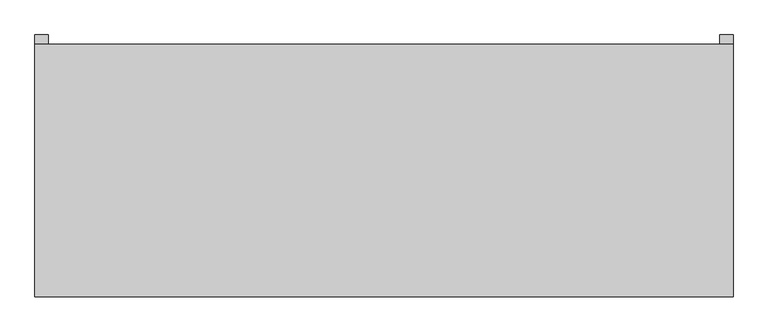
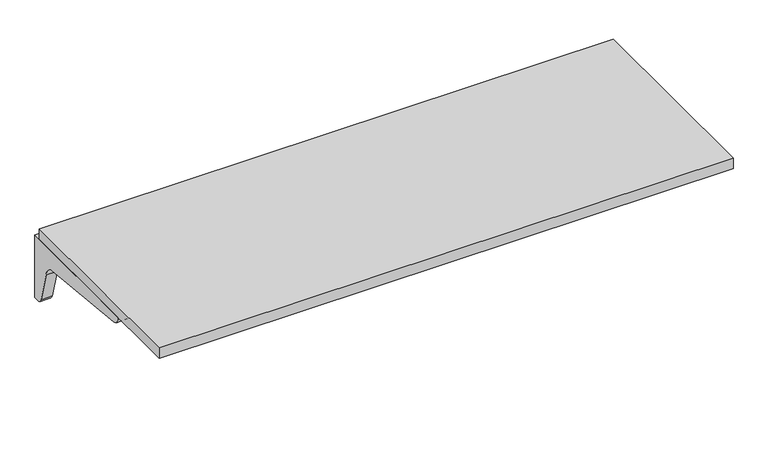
"""IFC4 building model written with IfcOpenShell, lengths in millimetres: furniture geometry."""

from ifc_helpers import new_model, si_unit, point, frame, frame_2d, origin, place, context, project, spatial, polyline, circle_curve, trimmed, segment, composite_curve, outline, extrude, source, transform, mapped, element, save


def furniture_96cd3a92(model_context):
    return source(origin(), model_context, "Body", "SweptSolid", [
        extrude(outline(composite_curve([segment(polyline([(314.325, 704.85), (314.325, 511.175), (301.625, 511.175)]), True, "CONTINUOUS"), segment(trimmed(circle_curve(frame_2d((299.3081081, 528.3371622)), 17.3178462), [point((301.625, 511.175))], [point((282.575, 523.875))], False, "CARTESIAN"), True, "CONTINUOUS"), segment(polyline([(282.575, 523.875), (257.175, 615.95)]), True, "CONTINUOUS"), segment(trimmed(circle_curve(frame_2d((221.8170455, 612.3420455)), 35.5415572), [point((257.175, 615.95))], [point((225.425, 647.7))], True, "CARTESIAN"), True, "CONTINUOUS"), segment(polyline([(225.425, 647.7), (-85.725, 679.45)]), True, "CONTINUOUS"), segment(trimmed(circle_curve(frame_2d((-85.725, 698.5)), 19.05), [point((-85.725, 679.45))], [point((-104.775, 698.5))], False, "CARTESIAN"), True, "CONTINUOUS"), segment(polyline([(-104.775, 698.5), (-104.775, 704.85), (314.325, 704.85)]), True, "CONTINUOUS")], self_intersect=False)), frame((806.45, 0.0, 0.0), z_axis=(1.0, 0.0, 0.0), x_axis=(0.0, 1.0, 0.0)), (0.0, 0.0, 1.0), 31.75),
        extrude(outline(composite_curve([segment(polyline([(314.325, 704.85), (314.325, 511.175), (301.625, 511.175)]), True, "CONTINUOUS"), segment(trimmed(circle_curve(frame_2d((299.3081081, 528.3371622)), 17.3178462), [point((301.625, 511.175))], [point((282.575, 523.875))], False, "CARTESIAN"), True, "CONTINUOUS"), segment(polyline([(282.575, 523.875), (257.175, 615.95)]), True, "CONTINUOUS"), segment(trimmed(circle_curve(frame_2d((221.8170455, 612.3420455)), 35.5415572), [point((257.175, 615.95))], [point((225.425, 647.7))], True, "CARTESIAN"), True, "CONTINUOUS"), segment(polyline([(225.425, 647.7), (-85.725, 679.45)]), True, "CONTINUOUS"), segment(trimmed(circle_curve(frame_2d((-85.725, 698.5)), 19.05), [point((-85.725, 679.45))], [point((-104.775, 698.5))], False, "CARTESIAN"), True, "CONTINUOUS"), segment(polyline([(-104.775, 698.5), (-104.775, 704.85), (314.325, 704.85)]), True, "CONTINUOUS")], self_intersect=False)), frame((-838.2, 0.0, 0.0), z_axis=(1.0, 0.0, 0.0), x_axis=(0.0, 1.0, 0.0)), (0.0, 0.0, 1.0), 31.75),
        extrude(outline(polyline([(-838.2, 292.1), (838.2, 292.1), (838.2, -314.325), (-838.2, -314.325), (-838.2, 292.1)])), frame((0.0, 0.0, 704.85), z_axis=(0.0, 0.0, 1.0), x_axis=(1.0, 0.0, 0.0)), (0.0, 0.0, 1.0), 31.75),
    ])


if __name__ == "__main__":
    model = new_model("IFC4")
    model_context = context("Model", 3, world=origin())
    ifc_project = project(units=[si_unit("LENGTHUNIT", "METRE", prefix="MILLI")], contexts=[model_context])
    site = spatial("IfcSite", under=ifc_project)
    building = spatial("IfcBuilding", under=site)
    placement = place(None, origin())
    furniture_shape = furniture_96cd3a92(model_context)
    element("IfcFurniture", 1, ObjectType="HermanMiller_ActionOffice_A2310_Sq-EdgeRectangularWorkSurface : 24\"D x 66\"W", at=placement, inside=building, context=model_context, shape_type="MappedRepresentation", body=[
        mapped(furniture_shape, transform((0.0, 0.0, 0.0), x_axis=(1.0, 0.0, 0.0), y_axis=(0.0, 1.0, 0.0), z_axis=(0.0, 0.0, 1.0))),
    ])
    save(model, "model.ifc")
